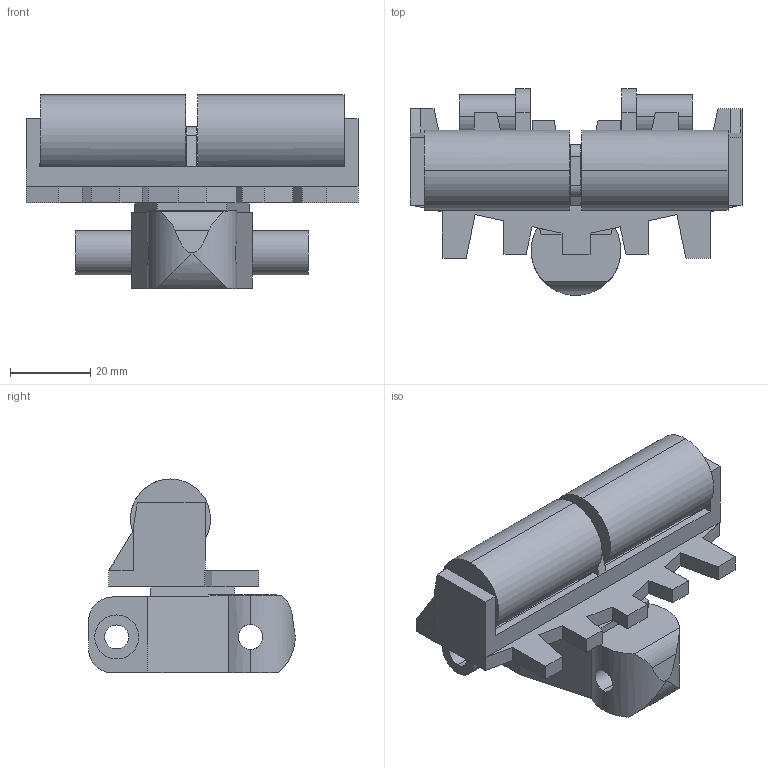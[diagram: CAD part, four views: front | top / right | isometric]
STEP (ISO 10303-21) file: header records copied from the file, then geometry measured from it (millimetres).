
FILE_DESCRIPTION (( 'STEP AP214' ), '1' );
FILE_NAME ('FMRC 5C.step', '2017-04-04T13:35:10', ( '' ), ( '' ), 'SwSTEP 2.0', 'SolidWorks 2015', '' );
FILE_SCHEMA (( 'AUTOMOTIVE_DESIGN' ));
Length unit declared in the file: millimetre
Products named in the file (1): FMRC 5C
Bounding box: 83 x 51.65 x 48.5 mm (x, y, z)
Volume: 51824.1 mm3; surface area: 20310.8 mm2
Topology: 1 solids, 1 shells, 136 faces, 380 edges, 247 vertices
Faces by surface type: plane 111, cylinder 25
Entity records: 4570 total; most frequent: CARTESIAN_POINT 926, ORIENTED_EDGE 760, DIRECTION 690, EDGE_CURVE 380, LINE 324, VECTOR 324, VERTEX_POINT 247, AXIS2_PLACEMENT_3D 183
